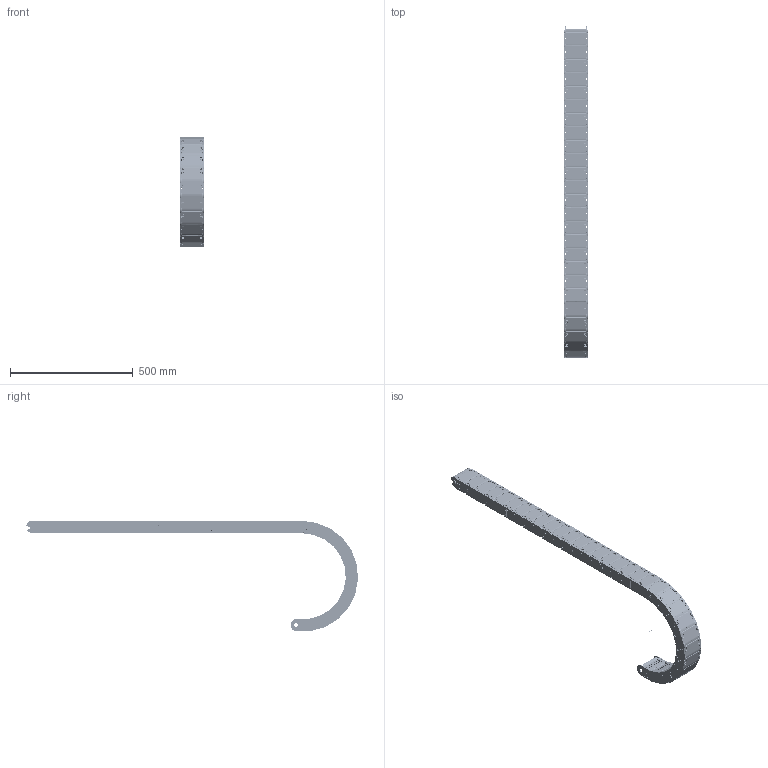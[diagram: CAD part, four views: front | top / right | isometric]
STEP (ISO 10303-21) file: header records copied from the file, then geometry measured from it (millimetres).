
FILE_DESCRIPTION((''),'2;1');
FILE_NAME('C:\Uebbing\PARAMETERKETTEN\KOLIBRI\Kol_50_095_5\KOLIBRI 50_095_5_R200.stp','2015-06-24T14:00:06',('Uebbing'),(''),'Autodesk Inventor 10','Autodesk Inventor 10','');
FILE_SCHEMA(('AUTOMOTIVE_DESIGN { 1 0 10303 214 1 1 1 1 }'));
Length unit declared in the file: millimetre
Products named in the file (5): KOLIBRI 50_095_5_PARAMETRISCH; Achse; Kol_50_095_5 Glied; Kol_50_095_5_Lasche; Kol_50_095_5_Klappdeckel
Assembly tree (35 placements, depth 3):
  KOLIBRI 50_095_5_PARAMETRISCH
    Achse
    Kol_50_095_5 Glied  x32
      Kol_50_095_5_Lasche
      Kol_50_095_5_Klappdeckel
Bounding box: 95 x 1353.19 x 450 mm (x, y, z)
Volume: 2129118.7 mm3; surface area: 1485231.9 mm2
Topology: 65 solids, 65 shells, 24291 faces, 66244 edges, 43171 vertices
Faces by surface type: plane 13410, cylinder 7233, bspline 3520, cone 96, sphere 32
Full cylindrical faces by diameter (mm): 1 x1, 2.011 x64, 3.531 x64, 4 x192, 6 x64, 8 x192, 16 x64
Entity records: 25030 total; most frequent: CARTESIAN_POINT 5471, ORIENTED_EDGE 4074, DIRECTION 3946, EDGE_CURVE 2037, VECTOR 1466, LINE 1466, VERTEX_POINT 1342, AXIS2_PLACEMENT_3D 1240
